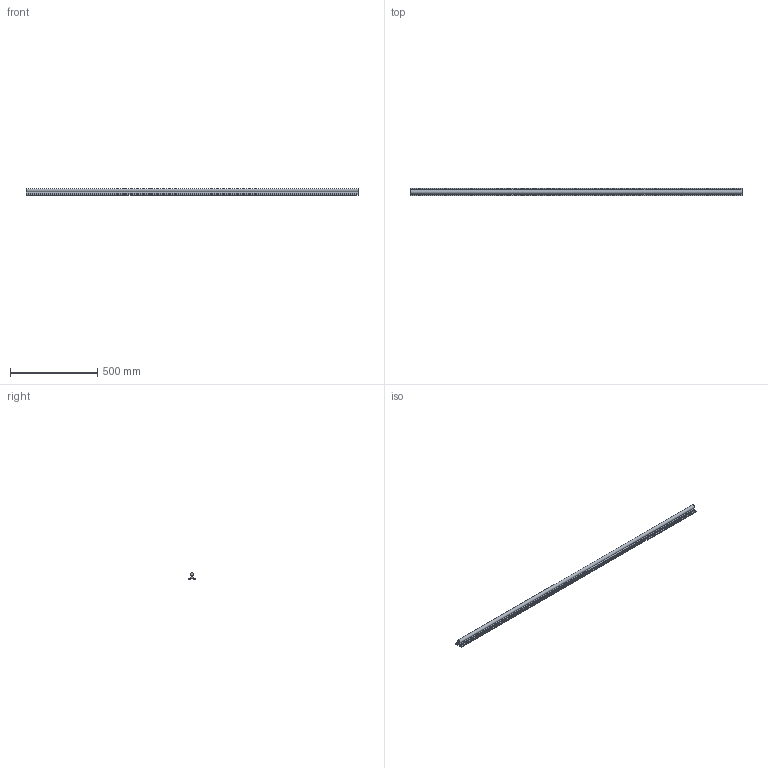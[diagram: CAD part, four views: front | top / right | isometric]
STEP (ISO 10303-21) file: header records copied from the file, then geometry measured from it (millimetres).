
FILE_DESCRIPTION(/* description */ (''),/* implementation_level */ '2;1');
FILE_NAME(/* name */ 'C:\Users\David\Desktop\stepFiles\Profilfuehrung\LFS20x1900.stp',/* time_stamp */ '2018-06-24T15:22:03+02:00',/* author */ ('Buskamp'),/* organization */ (''),/* preprocessor_version */ 'ST-DEVELOPER v17',/* originating_system */ 'Autodesk Inventor 2019',/* authorisation */ '');
FILE_SCHEMA (('AUTOMOTIVE_DESIGN { 1 0 10303 214 3 1 1 }'));
Length unit declared in the file: millimetre
Products named in the file (1): Linearführung D20xvariabel
Bounding box: 1900 x 45 x 37 mm (x, y, z)
Volume: 1227537.9 mm3; surface area: 336802.6 mm2
Topology: 1 solids, 1 shells, 146 faces, 504 edges, 334 vertices
Faces by surface type: plane 103, cylinder 27, cone 16
Full cylindrical faces by diameter (mm): 5.5 x26
Entity records: 5631 total; most frequent: CARTESIAN_POINT 1049, ORIENTED_EDGE 1008, DIRECTION 966, EDGE_CURVE 504, AXIS2_PLACEMENT_3D 347, VERTEX_POINT 334, LINE 272, VECTOR 272
